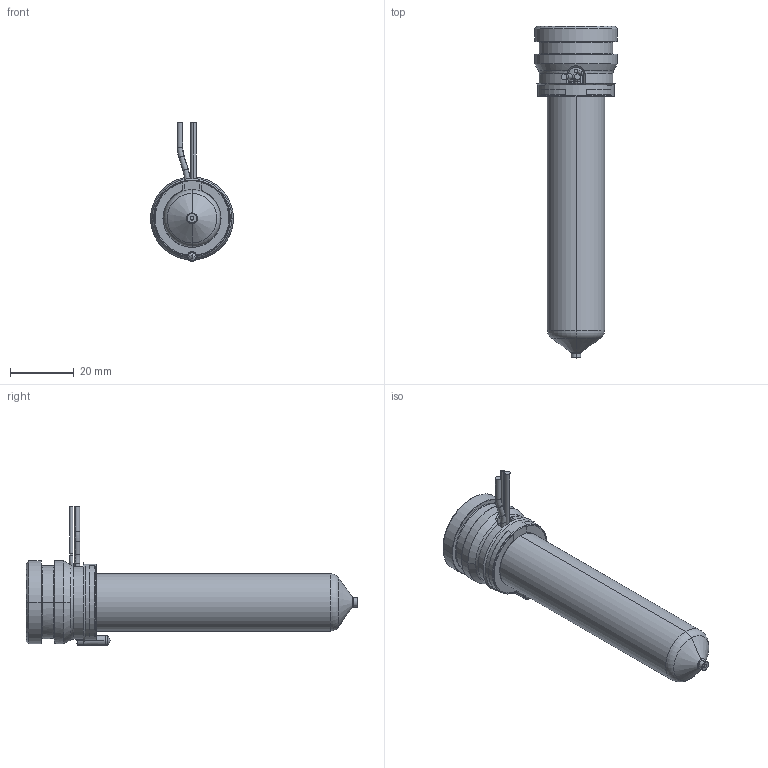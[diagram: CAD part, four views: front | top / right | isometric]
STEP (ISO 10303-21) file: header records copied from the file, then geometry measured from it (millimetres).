
FILE_DESCRIPTION((''),'2;1');
FILE_NAME('MPN-08-24-VP3-086-A','2026-02-05T12:01:32',('UPTIO'),('Thermoplay S.p.A.'),'CREO PARAMETRIC BY PTC INC, 2023494','CREO PARAMETRIC BY PTC INC, 2023494','');
FILE_SCHEMA(('CONFIG_CONTROL_DESIGN','SHAPE_APPEARANCE_LAYERS_GROUPS'));
Length unit declared in the file: millimetre
Products named in the file (1): MPN-08-24-VP3-086-A
Bounding box: 26 x 104.1 x 43.5 mm (x, y, z)
Volume: 20998 mm3; surface area: 26261.7 mm2
Topology: 2 solids, 3 shells, 587 faces, 1560 edges, 971 vertices
Faces by surface type: cylinder 184, plane 143, bspline 108, torus 70, cone 68, sphere 8, extrusion 6
Entity records: 31633 total; most frequent: CARTESIAN_POINT 14399, ORIENTED_EDGE 3104, DIRECTION 2714, EDGE_CURVE 1552, AXIS2_PLACEMENT_3D 1061, VERTEX_POINT 971, EDGE_LOOP 615, VECTOR 592
